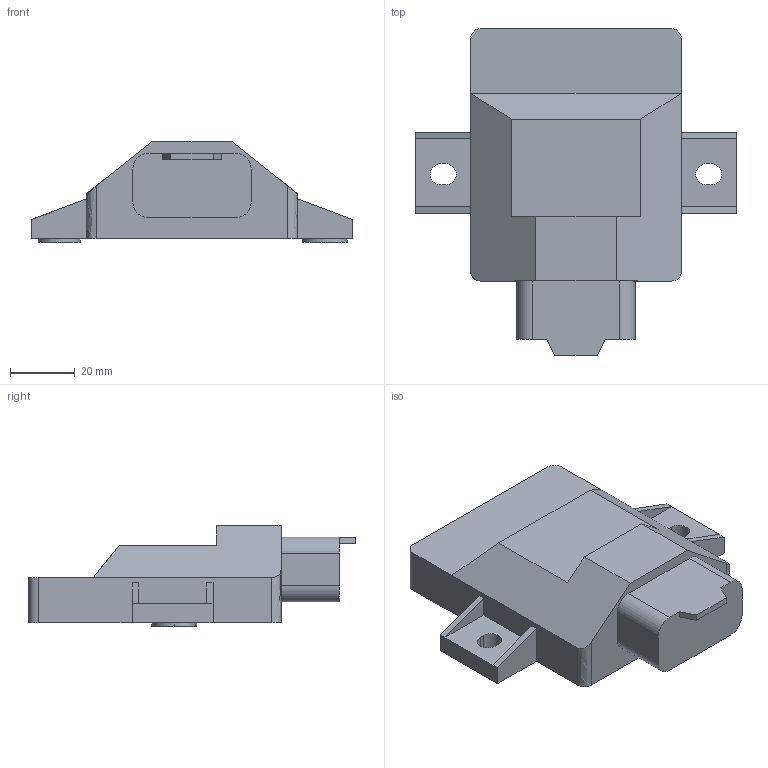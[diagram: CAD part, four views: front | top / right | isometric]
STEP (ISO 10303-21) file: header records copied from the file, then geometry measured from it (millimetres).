
FILE_DESCRIPTION((''),'2;1');
FILE_NAME('164000-10500_PROPORTIONAL_SOLEN','2020-08-19T',('ib46307'),('YANMAR CO., LTD.'),'PRO/ENGINEER BY PARAMETRIC TECHNOLOGY CORPORATION, 2017170','PRO/ENGINEER BY PARAMETRIC TECHNOLOGY CORPORATION, 2017170','');
FILE_SCHEMA(('CONFIG_CONTROL_DESIGN'));
Length unit declared in the file: millimetre
Products named in the file (1): 164000-10500_PROPORTIONAL_SOLEN
Bounding box: 99 x 101 x 31 mm (x, y, z)
Volume: 121451.2 mm3; surface area: 20478.8 mm2
Topology: 1 solids, 1 shells, 59 faces, 156 edges, 102 vertices
Faces by surface type: bspline 43, revolution 16
Entity records: 2417 total; most frequent: CARTESIAN_POINT 1013, ORIENTED_EDGE 312, DIRECTION 198, EDGE_CURVE 156, VECTOR 122, LINE 122, VERTEX_POINT 102, EDGE_LOOP 66
